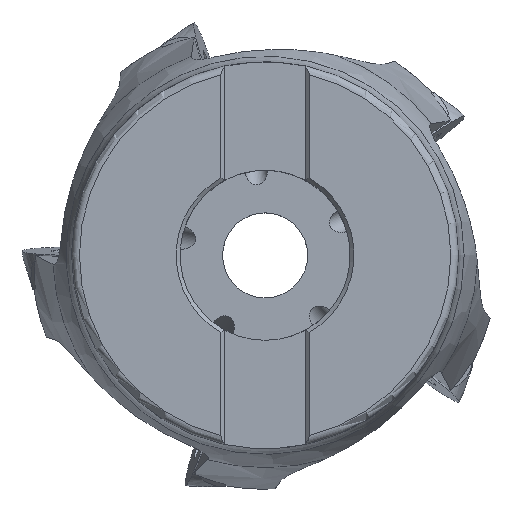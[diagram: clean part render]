
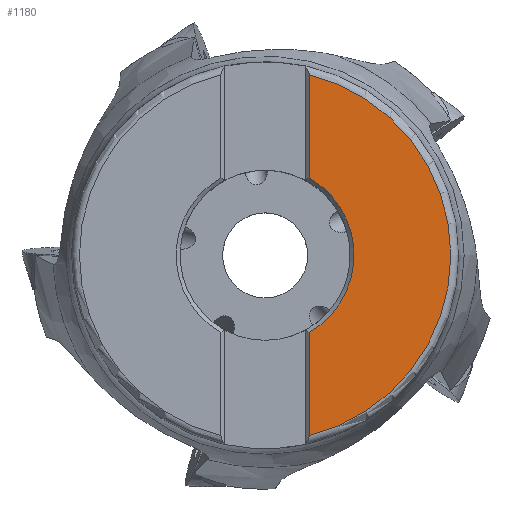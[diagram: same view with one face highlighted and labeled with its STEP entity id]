
A CAD part, top view. The second image highlights one B-rep face of the part: STEP entity #1180.
In plain terms, the highlighted planar face has unit normal (0, 0, 1).
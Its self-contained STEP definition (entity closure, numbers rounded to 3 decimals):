
#981=FACE_OUTER_BOUND('',#2256,.T.);
#1180=ADVANCED_FACE('',(#981),#1374,.F.);
#1374=PLANE('',#5641);
#1472=LINE('',#8569,#1647);
#1473=LINE('',#8573,#1648);
#1647=VECTOR('',#6370,1.);
#1648=VECTOR('',#6373,1.);
#2256=EDGE_LOOP('',(#2728,#2729,#2730,#2731));
#2728=ORIENTED_EDGE('',*,*,#4721,.T.);
#2729=ORIENTED_EDGE('',*,*,#4722,.T.);
#2730=ORIENTED_EDGE('',*,*,#4723,.T.);
#2731=ORIENTED_EDGE('',*,*,#4724,.T.);
#4130=VERTEX_POINT('',#8567);
#4131=VERTEX_POINT('',#8568);
#4132=VERTEX_POINT('',#8570);
#4133=VERTEX_POINT('',#8572);
#4721=EDGE_CURVE('',#4130,#4131,#5326,.T.);
#4722=EDGE_CURVE('',#4131,#4132,#1472,.T.);
#4723=EDGE_CURVE('',#4132,#4133,#5327,.T.);
#4724=EDGE_CURVE('',#4133,#4130,#1473,.T.);
#5326=CIRCLE('',#5639,11.5);
#5327=CIRCLE('',#5640,24.);
#5639=AXIS2_PLACEMENT_3D('',#8566,#6368,#6369);
#5640=AXIS2_PLACEMENT_3D('',#8571,#6371,#6372);
#5641=AXIS2_PLACEMENT_3D('',#8574,#6374,#6375);
#6368=DIRECTION('',(0.,0.,-1.));
#6369=DIRECTION('',(-1.,0.,0.));
#6370=DIRECTION('',(0.,-1.,0.));
#6371=DIRECTION('',(0.,0.,1.));
#6372=DIRECTION('',(-1.,0.,0.));
#6373=DIRECTION('',(0.,-1.,0.));
#6374=DIRECTION('',(0.,0.,-1.));
#6375=DIRECTION('',(1.,0.,0.));
#8566=CARTESIAN_POINT('',(0.,0.,0.));
#8567=CARTESIAN_POINT('',(5.7,9.988,0.));
#8568=CARTESIAN_POINT('',(5.7,-9.988,0.));
#8569=CARTESIAN_POINT('',(5.7,0.,0.));
#8570=CARTESIAN_POINT('',(5.7,-23.313,0.));
#8571=CARTESIAN_POINT('',(0.,0.,0.));
#8572=CARTESIAN_POINT('',(5.7,23.313,0.));
#8573=CARTESIAN_POINT('',(5.7,0.,0.));
#8574=CARTESIAN_POINT('',(-25.,0.,0.));
